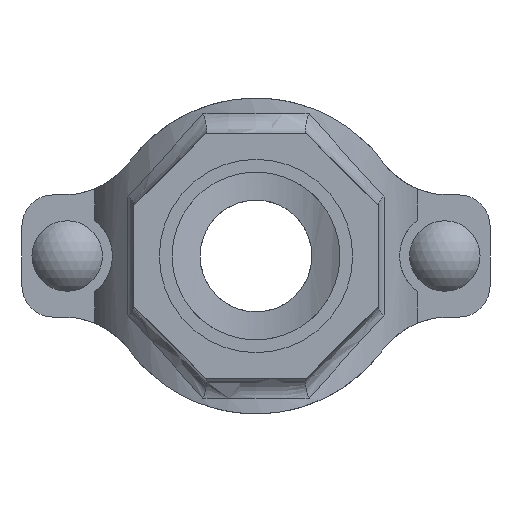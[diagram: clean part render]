
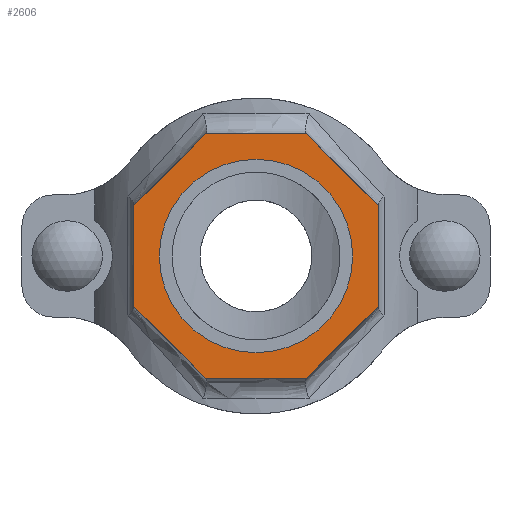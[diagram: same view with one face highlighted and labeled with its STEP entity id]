
A CAD part, front view. The second image highlights one B-rep face of the part: STEP entity #2606.
In plain terms, the highlighted planar face has unit normal (0, -1, 0) as drawn and (0, 1, 0) by its records, which use the part's own axes.
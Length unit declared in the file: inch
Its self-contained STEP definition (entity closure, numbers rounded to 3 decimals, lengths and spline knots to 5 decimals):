
#200=FACE_BOUND('',#476,.T.);
#322=FACE_OUTER_BOUND('',#475,.T.);
#475=EDGE_LOOP('',(#2189,#2190,#2191,#2192,#2193,#2194,#2195,#2196));
#476=EDGE_LOOP('',(#2197));
#613=LINE('',#4804,#799);
#616=LINE('',#4809,#802);
#618=LINE('',#4813,#804);
#620=LINE('',#4817,#806);
#656=LINE('',#5238,#842);
#658=LINE('',#5242,#844);
#660=LINE('',#5246,#846);
#662=LINE('',#5249,#848);
#799=VECTOR('',#3356,0.3937);
#802=VECTOR('',#3361,0.3937);
#804=VECTOR('',#3365,0.3937);
#806=VECTOR('',#3369,0.3937);
#842=VECTOR('',#3493,0.3937);
#844=VECTOR('',#3497,0.3937);
#846=VECTOR('',#3501,0.3937);
#848=VECTOR('',#3505,0.3937);
#934=CIRCLE('',#2870,1.1875);
#1124=VERTEX_POINT('',#4801);
#1125=VERTEX_POINT('',#4803);
#1126=VERTEX_POINT('',#4807);
#1127=VERTEX_POINT('',#4811);
#1128=VERTEX_POINT('',#4815);
#1159=VERTEX_POINT('',#5087);
#1183=VERTEX_POINT('',#5237);
#1184=VERTEX_POINT('',#5241);
#1185=VERTEX_POINT('',#5245);
#1447=EDGE_CURVE('',#1125,#1124,#613,.T.);
#1450=EDGE_CURVE('',#1124,#1126,#616,.T.);
#1452=EDGE_CURVE('',#1126,#1127,#618,.T.);
#1454=EDGE_CURVE('',#1127,#1128,#620,.T.);
#1496=EDGE_CURVE('',#1159,#1159,#934,.T.);
#1528=EDGE_CURVE('',#1183,#1125,#656,.T.);
#1530=EDGE_CURVE('',#1184,#1183,#658,.T.);
#1532=EDGE_CURVE('',#1185,#1184,#660,.T.);
#1534=EDGE_CURVE('',#1128,#1185,#662,.T.);
#2189=ORIENTED_EDGE('',*,*,#1534,.T.);
#2190=ORIENTED_EDGE('',*,*,#1532,.T.);
#2191=ORIENTED_EDGE('',*,*,#1530,.T.);
#2192=ORIENTED_EDGE('',*,*,#1528,.T.);
#2193=ORIENTED_EDGE('',*,*,#1447,.T.);
#2194=ORIENTED_EDGE('',*,*,#1450,.T.);
#2195=ORIENTED_EDGE('',*,*,#1452,.T.);
#2196=ORIENTED_EDGE('',*,*,#1454,.T.);
#2197=ORIENTED_EDGE('',*,*,#1496,.T.);
#2341=PLANE('',#2893);
#2606=ADVANCED_FACE('',(#322,#200),#2341,.T.);
#2870=AXIS2_PLACEMENT_3D('',#5088,#3439,#3440);
#2893=AXIS2_PLACEMENT_3D('',#5250,#3506,#3507);
#3356=DIRECTION('',(0.,0.,1.));
#3361=DIRECTION('',(0.707,0.,0.707));
#3365=DIRECTION('',(1.,0.,0.));
#3369=DIRECTION('',(0.707,0.,-0.707));
#3439=DIRECTION('center_axis',(0.,-1.,0.));
#3440=DIRECTION('ref_axis',(-1.,0.,0.));
#3493=DIRECTION('',(-0.707,0.,0.707));
#3497=DIRECTION('',(-1.,0.,0.));
#3501=DIRECTION('',(-0.707,0.,-0.707));
#3505=DIRECTION('',(0.,0.,-1.));
#3506=DIRECTION('center_axis',(0.,1.,0.));
#3507=DIRECTION('ref_axis',(0.,0.,1.));
#4801=CARTESIAN_POINT('',(-1.5,3.5,0.62132));
#4803=CARTESIAN_POINT('',(-1.5,3.5,-0.62132));
#4804=CARTESIAN_POINT('',(-1.5,3.5,0.62132));
#4807=CARTESIAN_POINT('',(-0.62132,3.5,1.5));
#4809=CARTESIAN_POINT('',(-0.62132,3.5,1.5));
#4811=CARTESIAN_POINT('',(0.62132,3.5,1.5));
#4813=CARTESIAN_POINT('',(0.62132,3.5,1.5));
#4815=CARTESIAN_POINT('',(1.5,3.5,0.62132));
#4817=CARTESIAN_POINT('',(1.5,3.5,0.62132));
#5087=CARTESIAN_POINT('',(1.1875,3.5,0.));
#5088=CARTESIAN_POINT('Origin',(0.,3.5,0.));
#5237=CARTESIAN_POINT('',(-0.62132,3.5,-1.5));
#5238=CARTESIAN_POINT('',(-1.5,3.5,-0.62132));
#5241=CARTESIAN_POINT('',(0.62132,3.5,-1.5));
#5242=CARTESIAN_POINT('',(-0.62132,3.5,-1.5));
#5245=CARTESIAN_POINT('',(1.5,3.5,-0.62132));
#5246=CARTESIAN_POINT('',(0.62132,3.5,-1.5));
#5249=CARTESIAN_POINT('',(1.5,3.5,-0.62132));
#5250=CARTESIAN_POINT('Origin',(0.,3.5,0.));
